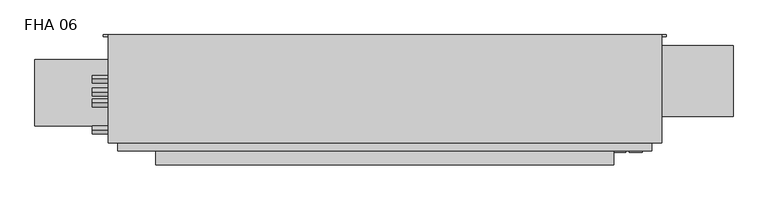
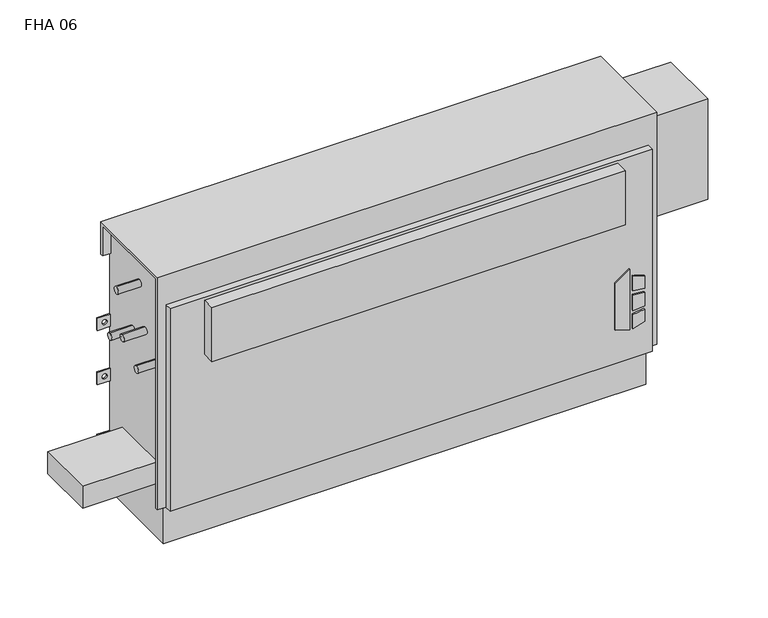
"""IFC4 building model written with IfcOpenShell, lengths in millimetres: proxy geometry, Vertical_Fan_Coil_Unit_-_FHA_-_IEC_-_4-Pipe_FS-FR_LH_2022 : FHA 06."""

from ifc_helpers import new_model, si_unit, point, frame, frame_2d, origin, place, context, project, spatial, polyline, circle_curve, trimmed, segment, composite_curve, outline, extrude, source, transform, mapped, element, save
from ifc_brep_helpers import plane_surface, revolved_surface, advanced_brep


def fha_06_32068518(model_context):
    return source(origin(), model_context, "Body", "SolidModel", [
        extrude(outline(polyline([(172.5771459, 601.7368862), (162.6290756, 633.9102728), (304.8, 633.9102728), (281.7779939, 601.7368862), (172.5771459, 601.7368862)])), frame((0.0, 9.525, 0.0), z_axis=(0.0, 1.0, 0.0), x_axis=(0.0, 0.0, 1.0)), (0.0, 0.0, 1.0), 3.175),
        extrude(outline(polyline([(251.5764313, 640.6686058), (248.3740387, 666.75), (277.6028798, 666.75), (285.6672948, 640.6686058), (251.5764313, 640.6686058)])), frame((0.0, 9.525, 0.0), z_axis=(0.0, 1.0, 0.0), x_axis=(0.0, 0.0, 1.0)), (0.0, 0.0, 1.0), 3.175),
        extrude(outline(polyline([(199.7129044, 666.75), (196.0474034, 640.6686058), (162.6290756, 640.6686058), (171.2633128, 666.75), (199.7129044, 666.75)])), frame((0.0, 9.525, 0.0), z_axis=(0.0, 1.0, 0.0), x_axis=(0.0, 0.0, 1.0)), (0.0, 0.0, 1.0), 3.175),
        extrude(outline(polyline([(239.0280658, 666.75), (241.3098921, 640.6686058), (205.3723436, 640.6686058), (208.1136086, 666.75), (239.0280658, 666.75)])), frame((0.0, 9.525, 0.0), z_axis=(0.0, 1.0, 0.0), x_axis=(0.0, 0.0, 1.0)), (0.0, 0.0, 1.0), 3.175),
        extrude(outline(composite_curve([segment(trimmed(circle_curve(frame_2d((-444.5, 128.5875)), 9.525), [point((-454.025, 128.5875))], [point((-434.975, 128.5875))], False, "CARTESIAN"), True, "CONTINUOUS"), segment(trimmed(circle_curve(frame_2d((-444.5, 128.5875)), 9.525), [point((-434.975, 128.5875))], [point((-454.025, 128.5875))], False, "CARTESIAN"), True, "CONTINUOUS")], self_intersect=False)), frame((0.0, 0.0, 101.6), z_axis=(0.0, 0.0, 1.0), x_axis=(1.0, 0.0, 0.0)), (0.0, 0.0, 1.0), 25.4),
        extrude(outline(polyline([(-546.1, 61.9125), (-546.1, 195.2625), (-381.0, 195.2625), (-381.0, 61.9125), (-546.1, 61.9125)])), frame((0.0, 0.0, 127.0), z_axis=(0.0, 0.0, 1.0), x_axis=(1.0, 0.0, 0.0)), (0.0, 0.0, 1.0), 50.8),
        extrude(outline(polyline([(609.6, -15.875), (-304.8, -15.875), (-304.8, 12.7), (609.6, 12.7), (609.6, -15.875)])), frame((0.0, 0.0, 431.8), z_axis=(0.0, 0.0, 1.0), x_axis=(1.0, 0.0, 0.0)), (0.0, 0.0, 1.0), 127.0),
        extrude(outline(composite_curve([segment(trimmed(circle_curve(frame_2d((107.95, 457.2)), 7.9375), [point((107.95, 465.1375))], [point((107.95, 449.2625))], False, "CARTESIAN"), True, "CONTINUOUS"), segment(trimmed(circle_curve(frame_2d((107.95, 457.2)), 7.9375), [point((107.95, 449.2625))], [point((107.95, 465.1375))], False, "CARTESIAN"), True, "CONTINUOUS")], self_intersect=False)), frame((-431.8, 0.0, 0.0), z_axis=(1.0, 0.0, 0.0), x_axis=(0.0, 1.0, 0.0)), (0.0, 0.0, 1.0), 50.8),
        extrude(outline(composite_curve([segment(trimmed(circle_curve(frame_2d((155.575, 431.8)), 7.9375), [point((155.575, 439.7375))], [point((155.575, 423.8625))], False, "CARTESIAN"), True, "CONTINUOUS"), segment(trimmed(circle_curve(frame_2d((155.575, 431.8)), 7.9375), [point((155.575, 423.8625))], [point((155.575, 439.7375))], False, "CARTESIAN"), True, "CONTINUOUS")], self_intersect=False)), frame((-431.8, 0.0, 0.0), z_axis=(1.0, 0.0, 0.0), x_axis=(0.0, 1.0, 0.0)), (0.0, 0.0, 1.0), 50.8),
        extrude(outline(composite_curve([segment(trimmed(circle_curve(frame_2d((130.175, 554.99)), 7.9502), [point((130.175, 562.9402))], [point((130.175, 547.0398))], False, "CARTESIAN"), True, "CONTINUOUS"), segment(trimmed(circle_curve(frame_2d((130.175, 554.99)), 7.9502), [point((130.175, 547.0398))], [point((130.175, 562.9402))], False, "CARTESIAN"), True, "CONTINUOUS")], self_intersect=False)), frame((-431.8, 0.0, 0.0), z_axis=(1.0, 0.0, 0.0), x_axis=(0.0, 1.0, 0.0)), (0.0, 0.0, 1.0), 50.8),
        extrude(outline(composite_curve([segment(trimmed(circle_curve(frame_2d((53.975, 416.56)), 7.9502), [point((53.975, 424.5102))], [point((53.975, 408.6098))], False, "CARTESIAN"), True, "CONTINUOUS"), segment(trimmed(circle_curve(frame_2d((53.975, 416.56)), 7.9502), [point((53.975, 408.6098))], [point((53.975, 424.5102))], False, "CARTESIAN"), True, "CONTINUOUS")], self_intersect=False)), frame((-431.8, 0.0, 0.0), z_axis=(1.0, 0.0, 0.0), x_axis=(0.0, 1.0, 0.0)), (0.0, 0.0, 1.0), 50.8),
        extrude(outline(polyline([(847.725, 223.266), (847.725, 81.534), (685.8, 81.534), (685.8, 223.266), (847.725, 223.266)])), frame((0.0, 0.0, 349.25), z_axis=(0.0, 0.0, 1.0), x_axis=(1.0, 0.0, 0.0)), (0.0, 0.0, 1.0), 234.95),
        advanced_brep(
        [(704.85, 244.475, 635.0), (-400.05, 244.475, 635.0), (-400.05, 28.575, 635.0), (704.85, 28.575, 635.0), (-381.0, 244.475, 0.0), (685.8, 244.475, 0.0), (685.8, 38.1, 0.0), (-381.0, 38.1, 0.0), (704.85, 244.475, 558.8), (685.8, 244.475, 558.8), (685.8, 244.475, 414.3375), (714.375, 244.475, 414.3375), (714.375, 244.475, 385.7625), (685.8, 244.475, 385.7625), (685.8, 244.475, 287.3375), (714.375, 244.475, 287.3375), (714.375, 244.475, 258.7625), (685.8, 244.475, 258.7625), (685.8, 244.475, 141.2875), (714.375, 244.475, 141.2875), (714.375, 244.475, 112.7125), (685.8, 244.475, 112.7125), (-381.0, 244.475, 112.7125), (-409.575, 244.475, 112.7125), (-409.575, 244.475, 141.2875), (-381.0, 244.475, 141.2875), (-381.0, 244.475, 258.7625), (-409.575, 244.475, 258.7625), (-409.575, 244.475, 287.3375), (-381.0, 244.475, 287.3375), (-381.0, 244.475, 385.7625), (-409.575, 244.475, 385.7625), (-409.575, 244.475, 414.3375), (-381.0, 244.475, 414.3375), (-381.0, 244.475, 558.8), (-400.05, 244.475, 558.8), (704.0626, 244.475, 127.0), (692.9374, 244.475, 127.0), (-388.1374, 244.475, 127.0), (-399.2626, 244.475, 127.0), (704.0626, 244.475, 273.05), (692.9374, 244.475, 273.05), (-388.1374, 244.475, 273.05), (-399.2626, 244.475, 273.05), (704.0626, 244.475, 400.05), (692.9374, 244.475, 400.05), (-388.1374, 244.475, 400.05), (-399.2626, 244.475, 400.05), (-400.05, 238.125, 558.8), (-400.05, 238.125, 628.65), (-400.05, 34.925, 628.65), (-400.05, 34.925, 92.075), (-400.05, 28.575, 92.075), (685.8, 12.7, 565.15), (-381.0, 12.7, 565.15), (-381.0, 12.7, 92.075), (685.8, 12.7, 92.075), (704.85, 28.575, 92.075), (704.85, 34.925, 92.075), (704.85, 34.925, 628.65), (704.85, 238.125, 628.65), (704.85, 238.125, 558.8), (-381.0, 28.575, 92.075), (-381.0, 28.575, 565.15), (685.8, 28.575, 565.15), (685.8, 28.575, 92.075), (-381.0, 34.925, 92.075), (-381.0, 38.1, 92.075), (685.8, 38.1, 92.075), (685.8, 34.925, 92.075), (685.8, 241.3, 112.7125), (685.8, 241.3, 141.2875), (685.8, 241.3, 258.7625), (685.8, 241.3, 287.3375), (685.8, 241.3, 385.7625), (685.8, 241.3, 414.3375), (685.8, 238.125, 558.8), (685.8, 238.125, 628.65), (685.8, 34.925, 628.65), (-381.0, 34.925, 628.65), (-381.0, 238.125, 628.65), (-381.0, 238.125, 558.8), (-381.0, 241.3, 414.3375), (-381.0, 241.3, 385.7625), (-381.0, 241.3, 287.3375), (-381.0, 241.3, 258.7625), (-381.0, 241.3, 141.2875), (-381.0, 241.3, 112.7125), (714.375, 241.3, 112.7125), (714.375, 241.3, 141.2875), (692.9374, 241.3, 127.0), (704.0626, 241.3, 127.0), (714.375, 241.3, 258.7625), (714.375, 241.3, 287.3375), (692.9374, 241.3, 273.05), (704.0626, 241.3, 273.05), (714.375, 241.3, 385.7625), (714.375, 241.3, 414.3375), (692.9374, 241.3, 400.05), (704.0626, 241.3, 400.05), (-409.575, 241.3, 141.2875), (-409.575, 241.3, 112.7125), (-399.2626, 241.3, 127.0), (-388.1374, 241.3, 127.0), (-409.575, 241.3, 287.3375), (-409.575, 241.3, 258.7625), (-399.2626, 241.3, 273.05), (-388.1374, 241.3, 273.05), (-409.575, 241.3, 414.3375), (-409.575, 241.3, 385.7625), (-399.2626, 241.3, 400.05), (-388.1374, 241.3, 400.05)],
        [
            (0, 1),
            (1, 2),
            (2, 3),
            (3, 0),
            (4, 5),
            (5, 6),
            (6, 7),
            (7, 4),
            (0, 8),
            (8, 9),
            (9, 10),
            (10, 11),
            (11, 12),
            (12, 13),
            (13, 14),
            (14, 15),
            (15, 16),
            (16, 17),
            (17, 18),
            (18, 19),
            (19, 20),
            (20, 21),
            (21, 5),
            (4, 22),
            (22, 23),
            (23, 24),
            (24, 25),
            (25, 26),
            (26, 27),
            (27, 28),
            (28, 29),
            (29, 30),
            (30, 31),
            (31, 32),
            (32, 33),
            (33, 34),
            (34, 35),
            (35, 1),
            (36, 37, circle_curve(frame((698.5, 244.475, 127.0), z_axis=(0.0, -1.0, 0.0), x_axis=(-1.0, 0.0, 0.0)), 5.5626)),
            (37, 36, circle_curve(frame((698.5, 244.475, 127.0), z_axis=(0.0, -1.0, 0.0), x_axis=(-1.0, 0.0, 0.0)), 5.5626)),
            (38, 39, circle_curve(frame((-393.7, 244.475, 127.0), z_axis=(0.0, -1.0, 0.0), x_axis=(-1.0, 0.0, 0.0)), 5.5626)),
            (39, 38, circle_curve(frame((-393.7, 244.475, 127.0), z_axis=(0.0, -1.0, 0.0), x_axis=(-1.0, 0.0, 0.0)), 5.5626)),
            (40, 41, circle_curve(frame((698.5, 244.475, 273.05), z_axis=(0.0, -1.0, 0.0), x_axis=(-1.0, 0.0, 0.0)), 5.5626)),
            (41, 40, circle_curve(frame((698.5, 244.475, 273.05), z_axis=(0.0, -1.0, 0.0), x_axis=(-1.0, 0.0, 0.0)), 5.5626)),
            (42, 43, circle_curve(frame((-393.7, 244.475, 273.05), z_axis=(0.0, -1.0, 0.0), x_axis=(-1.0, 0.0, 0.0)), 5.5626)),
            (43, 42, circle_curve(frame((-393.7, 244.475, 273.05), z_axis=(0.0, -1.0, 0.0), x_axis=(-1.0, 0.0, 0.0)), 5.5626)),
            (44, 45, circle_curve(frame((698.5, 244.475, 400.05), z_axis=(0.0, -1.0, 0.0), x_axis=(-1.0, 0.0, 0.0)), 5.5626)),
            (45, 44, circle_curve(frame((698.5, 244.475, 400.05), z_axis=(0.0, -1.0, 0.0), x_axis=(-1.0, 0.0, 0.0)), 5.5626)),
            (46, 47, circle_curve(frame((-393.7, 244.475, 400.05), z_axis=(0.0, -1.0, 0.0), x_axis=(-1.0, 0.0, 0.0)), 5.5626)),
            (47, 46, circle_curve(frame((-393.7, 244.475, 400.05), z_axis=(0.0, -1.0, 0.0), x_axis=(-1.0, 0.0, 0.0)), 5.5626)),
            (35, 48),
            (48, 49),
            (49, 50),
            (50, 51),
            (51, 52),
            (52, 2),
            (53, 54),
            (54, 55),
            (55, 56),
            (56, 53),
            (3, 57),
            (57, 58),
            (58, 59),
            (59, 60),
            (60, 61),
            (61, 8),
            (52, 62),
            (62, 63),
            (63, 64),
            (64, 65),
            (65, 57),
            (53, 64),
            (63, 54),
            (55, 62),
            (51, 66),
            (66, 67),
            (67, 68),
            (68, 69),
            (69, 58),
            (65, 56),
            (6, 68),
            (67, 7),
            (21, 70),
            (70, 71),
            (71, 18),
            (17, 72),
            (72, 73),
            (73, 14),
            (13, 74),
            (74, 75),
            (75, 10),
            (9, 76),
            (76, 77),
            (77, 78),
            (78, 69),
            (66, 79),
            (79, 80),
            (80, 81),
            (81, 34),
            (33, 82),
            (82, 83),
            (83, 30),
            (29, 84),
            (84, 85),
            (85, 26),
            (25, 86),
            (86, 87),
            (87, 22),
            (76, 61),
            (60, 77),
            (78, 59),
            (50, 79),
            (81, 48),
            (80, 49),
            (70, 88),
            (88, 89),
            (89, 71),
            (90, 91, circle_curve(frame((698.5, 241.3, 127.0), z_axis=(0.0, 1.0, 0.0), x_axis=(-1.0, 0.0, 0.0)), 5.5626)),
            (91, 90, circle_curve(frame((698.5, 241.3, 127.0), z_axis=(0.0, 1.0, 0.0), x_axis=(-1.0, 0.0, 0.0)), 5.5626)),
            (92, 93),
            (93, 73),
            (72, 92),
            (94, 95, circle_curve(frame((698.5, 241.3, 273.05), z_axis=(0.0, 1.0, 0.0), x_axis=(-1.0, 0.0, 0.0)), 5.5626)),
            (95, 94, circle_curve(frame((698.5, 241.3, 273.05), z_axis=(0.0, 1.0, 0.0), x_axis=(-1.0, 0.0, 0.0)), 5.5626)),
            (96, 97),
            (97, 75),
            (74, 96),
            (98, 99, circle_curve(frame((698.5, 241.3, 400.05), z_axis=(0.0, 1.0, 0.0), x_axis=(-1.0, 0.0, 0.0)), 5.5626)),
            (99, 98, circle_curve(frame((698.5, 241.3, 400.05), z_axis=(0.0, 1.0, 0.0), x_axis=(-1.0, 0.0, 0.0)), 5.5626)),
            (100, 101),
            (101, 87),
            (86, 100),
            (102, 103, circle_curve(frame((-393.7, 241.3, 127.0), z_axis=(0.0, 1.0, 0.0), x_axis=(-1.0, 0.0, 0.0)), 5.5626)),
            (103, 102, circle_curve(frame((-393.7, 241.3, 127.0), z_axis=(0.0, 1.0, 0.0), x_axis=(-1.0, 0.0, 0.0)), 5.5626)),
            (84, 104),
            (104, 105),
            (105, 85),
            (106, 107, circle_curve(frame((-393.7, 241.3, 273.05), z_axis=(0.0, 1.0, 0.0), x_axis=(-1.0, 0.0, 0.0)), 5.5626)),
            (107, 106, circle_curve(frame((-393.7, 241.3, 273.05), z_axis=(0.0, 1.0, 0.0), x_axis=(-1.0, 0.0, 0.0)), 5.5626)),
            (108, 109),
            (109, 83),
            (82, 108),
            (110, 111, circle_curve(frame((-393.7, 241.3, 400.05), z_axis=(0.0, 1.0, 0.0), x_axis=(-1.0, 0.0, 0.0)), 5.5626)),
            (111, 110, circle_curve(frame((-393.7, 241.3, 400.05), z_axis=(0.0, 1.0, 0.0), x_axis=(-1.0, 0.0, 0.0)), 5.5626)),
            (89, 19),
            (88, 20),
            (16, 92),
            (93, 15),
            (12, 96),
            (97, 11),
            (24, 100),
            (101, 23),
            (105, 27),
            (104, 28),
            (32, 108),
            (109, 31),
            (90, 37),
            (36, 91),
            (102, 39),
            (38, 103),
            (94, 41),
            (40, 95),
            (106, 43),
            (42, 107),
            (98, 45),
            (44, 99),
            (110, 47),
            (46, 111),
        ],
        [
            plane_surface(frame((-400.05, 244.475, 635.0), z_axis=(0.0, 0.0, 1.0), x_axis=(-1.0, 0.0, 0.0))),
            plane_surface(frame((-400.05, 244.475, 0.0), z_axis=(0.0, 0.0, -1.0), x_axis=(1.0, 0.0, 0.0))),
            plane_surface(frame((704.85, 244.475, 635.0), z_axis=(0.0, 1.0, 0.0), x_axis=(0.0, 0.0, -1.0))),
            plane_surface(frame((-400.05, 244.475, 635.0), z_axis=(-1.0, 0.0, 0.0), x_axis=(0.0, 0.0, -1.0))),
            plane_surface(frame((-400.05, 12.7, 635.0), z_axis=(0.0, -1.0, 0.0), x_axis=(0.0, 0.0, -1.0))),
            plane_surface(frame((704.85, 12.7, 635.0), z_axis=(1.0, 0.0, 0.0), x_axis=(0.0, 0.0, -1.0))),
            plane_surface(frame((-654.05, 28.575, 635.0), z_axis=(0.0, -1.0, 0.0), x_axis=(1.0, 0.0, 0.0))),
            plane_surface(frame((-654.05, 28.575, 565.15), z_axis=(0.0, 0.0, 1.0), x_axis=(1.0, 0.0, 0.0))),
            plane_surface(frame((-400.05, 12.7, 92.075), z_axis=(0.0, 0.0, -1.0), x_axis=(1.0, 0.0, 0.0))),
            plane_surface(frame((-400.05, 38.1, 92.075), z_axis=(0.0, -1.0, 0.0), x_axis=(1.0, 0.0, 0.0))),
            plane_surface(frame((685.8, 28.575, 92.075), z_axis=(1.0, 0.0, 0.0), x_axis=(0.0, -1.0, 0.0))),
            plane_surface(frame((-381.0, 28.575, 565.15), z_axis=(-1.0, 0.0, 0.0), x_axis=(0.0, -1.0, 0.0))),
            plane_surface(frame((685.8, 244.475, 0.0), z_axis=(1.0, 0.0, 0.0), x_axis=(0.0, -1.0, 0.0))),
            plane_surface(frame((-381.0, 244.475, 92.075), z_axis=(-1.0, 0.0, 0.0), x_axis=(0.0, -1.0, 0.0))),
            plane_surface(frame((685.8, 238.125, 628.65), z_axis=(0.0, -1.0, 0.0), x_axis=(1.0, 0.0, 0.0))),
            plane_surface(frame((685.8, 238.125, 558.8), z_axis=(0.0, 0.0, -1.0), x_axis=(1.0, 0.0, 0.0))),
            plane_surface(frame((685.8, 34.925, 92.075), z_axis=(0.0, 1.0, 0.0), x_axis=(1.0, 0.0, 0.0))),
            plane_surface(frame((685.8, 34.925, 628.65), z_axis=(0.0, 0.0, -1.0), x_axis=(1.0, 0.0, 0.0))),
            plane_surface(frame((-381.0, 34.925, 628.65), z_axis=(0.0, 1.0, 0.0), x_axis=(-1.0, 0.0, 0.0))),
            plane_surface(frame((-381.0, 244.475, 558.8), z_axis=(0.0, 0.0, -1.0), x_axis=(-1.0, 0.0, 0.0))),
            plane_surface(frame((-381.0, 238.125, 558.8), z_axis=(0.0, -1.0, 0.0), x_axis=(-1.0, 0.0, 0.0))),
            plane_surface(frame((-381.0, 238.125, 628.65), z_axis=(0.0, 0.0, -1.0), x_axis=(-1.0, 0.0, 0.0))),
            plane_surface(frame((714.375, 241.3, 141.2875), z_axis=(0.0, -1.0, 0.0), x_axis=(-1.0, 0.0, 0.0))),
            plane_surface(frame((685.8, 244.475, 141.2875), z_axis=(0.0, 0.0, 1.0), x_axis=(0.0, -1.0, 0.0))),
            plane_surface(frame((714.375, 244.475, 141.2875), z_axis=(1.0, 0.0, 0.0), x_axis=(0.0, -1.0, 0.0))),
            plane_surface(frame((714.375, 244.475, 112.7125), z_axis=(0.0, 0.0, -1.0), x_axis=(0.0, -1.0, 0.0))),
            plane_surface(frame((714.375, 244.475, 258.7625), z_axis=(0.0, 0.0, -1.0), x_axis=(0.0, -1.0, 0.0))),
            plane_surface(frame((685.8, 244.475, 287.3375), z_axis=(0.0, 0.0, 1.0), x_axis=(0.0, -1.0, 0.0))),
            plane_surface(frame((714.375, 244.475, 287.3375), z_axis=(1.0, 0.0, 0.0), x_axis=(0.0, -1.0, 0.0))),
            plane_surface(frame((714.375, 244.475, 385.7625), z_axis=(0.0, 0.0, -1.0), x_axis=(0.0, -1.0, 0.0))),
            plane_surface(frame((685.8, 244.475, 414.3375), z_axis=(0.0, 0.0, 1.0), x_axis=(0.0, -1.0, 0.0))),
            plane_surface(frame((714.375, 244.475, 414.3375), z_axis=(1.0, 0.0, 0.0), x_axis=(0.0, -1.0, 0.0))),
            plane_surface(frame((-409.575, 244.475, 141.2875), z_axis=(0.0, 0.0, 1.0), x_axis=(0.0, -1.0, 0.0))),
            plane_surface(frame((-381.0, 244.475, 112.7125), z_axis=(0.0, 0.0, -1.0), x_axis=(0.0, -1.0, 0.0))),
            plane_surface(frame((-409.575, 244.475, 112.7125), z_axis=(-1.0, 0.0, 0.0), x_axis=(0.0, -1.0, 0.0))),
            plane_surface(frame((-381.0, 244.475, 258.7625), z_axis=(0.0, 0.0, -1.0), x_axis=(0.0, -1.0, 0.0))),
            plane_surface(frame((-409.575, 244.475, 258.7625), z_axis=(-1.0, 0.0, 0.0), x_axis=(0.0, -1.0, 0.0))),
            plane_surface(frame((-409.575, 244.475, 287.3375), z_axis=(0.0, 0.0, 1.0), x_axis=(0.0, -1.0, 0.0))),
            plane_surface(frame((-409.575, 244.475, 414.3375), z_axis=(0.0, 0.0, 1.0), x_axis=(0.0, -1.0, 0.0))),
            plane_surface(frame((-381.0, 244.475, 385.7625), z_axis=(0.0, 0.0, -1.0), x_axis=(0.0, -1.0, 0.0))),
            plane_surface(frame((-409.575, 244.475, 385.7625), z_axis=(-1.0, 0.0, 0.0), x_axis=(0.0, -1.0, 0.0))),
            revolved_surface(polyline([(692.9374, 241.3, 127.0), (692.9374, 244.475, 127.0)]), (698.5, 244.475, 127.0), (0.0, -1.0, 0.0)),
            revolved_surface(polyline([(-399.26259999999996, 241.3, 127.0), (-399.26259999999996, 244.475, 127.0)]), (-393.7, 244.475, 127.0), (0.0, -1.0, 0.0)),
            revolved_surface(polyline([(692.9374, 241.3, 273.05), (692.9374, 244.475, 273.05)]), (698.5, 244.475, 273.05), (0.0, -1.0, 0.0)),
            revolved_surface(polyline([(-399.26259999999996, 241.3, 273.05), (-399.26259999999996, 244.475, 273.05)]), (-393.7, 244.475, 273.05), (0.0, -1.0, 0.0)),
            revolved_surface(polyline([(692.9374, 241.3, 400.05), (692.9374, 244.475, 400.05)]), (698.5, 244.475, 400.05), (0.0, -1.0, 0.0)),
            revolved_surface(polyline([(-399.26259999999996, 241.3, 400.05), (-399.26259999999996, 244.475, 400.05)]), (-393.7, 244.475, 400.05), (0.0, -1.0, 0.0)),
        ],
        [
            (0, [[1, 2, 3, 4]]),
            (1, [[5, 6, 7, 8]]),
            (2, [[-1, 9, 10, 11, 12, 13, 14, 15, 16, 17, 18, 19, 20, 21, 22, 23, -5, 24, 25, 26, 27, 28, 29, 30, 31, 32, 33, 34, 35, 36, 37, 38], [39, 40], [41, 42], [43, 44], [45, 46], [47, 48], [49, 50]]),
            (3, [[-2, -38, 51, 52, 53, 54, 55, 56]]),
            (4, [[57, 58, 59, 60]]),
            (5, [[-4, 61, 62, 63, 64, 65, 66, -9]]),
            (6, [[-3, -56, 67, 68, 69, 70, 71, -61]]),
            (7, [[-57, 72, -69, 73]]),
            (8, [[-59, 74, -67, -55, 75, 76, 77, 78, 79, -62, -71, 80]]),
            (9, [[-7, 81, -77, 82]]),
            (10, [[-70, -72, -60, -80]]),
            (11, [[-68, -74, -58, -73]]),
            (12, [[-6, -23, 83, 84, 85, -19, 86, 87, 88, -15, 89, 90, 91, -11, 92, 93, 94, 95, -78, -81]]),
            (13, [[-8, -82, -76, 96, 97, 98, 99, -36, 100, 101, 102, -32, 103, 104, 105, -28, 106, 107, 108, -24]]),
            (14, [[-93, 109, -65, 110]]),
            (15, [[-92, -10, -66, -109]]),
            (16, [[-95, 111, -63, -79]]),
            (17, [[-94, -110, -64, -111]]),
            (18, [[-96, -75, -54, 112]]),
            (19, [[-99, 113, -51, -37]]),
            (20, [[-98, 114, -52, -113]]),
            (21, [[-97, -112, -53, -114]]),
            (22, [[115, 116, 117, -84], [118, 119]]),
            (22, [[120, 121, -87, 122], [123, 124]]),
            (22, [[125, 126, -90, 127], [128, 129]]),
            (22, [[130, 131, -107, 132], [133, 134]]),
            (22, [[135, 136, 137, -104], [138, 139]]),
            (22, [[140, 141, -101, 142], [143, 144]]),
            (23, [[-117, 145, -20, -85]]),
            (24, [[-116, 146, -21, -145]]),
            (25, [[-115, -83, -22, -146]]),
            (26, [[-122, -86, -18, 147]]),
            (27, [[-121, 148, -16, -88]]),
            (28, [[-120, -147, -17, -148]]),
            (29, [[-127, -89, -14, 149]]),
            (30, [[-126, 150, -12, -91]]),
            (31, [[-125, -149, -13, -150]]),
            (32, [[-132, -106, -27, 151]]),
            (33, [[-131, 152, -25, -108]]),
            (34, [[-130, -151, -26, -152]]),
            (35, [[-137, 153, -29, -105]]),
            (36, [[-136, 154, -30, -153]]),
            (37, [[-135, -103, -31, -154]]),
            (38, [[-142, -100, -35, 155]]),
            (39, [[-141, 156, -33, -102]]),
            (40, [[-140, -155, -34, -156]]),
            (41, [[157, -39, 158, -118]]),
            (41, [[-157, -119, -158, -40]]),
            (42, [[159, -41, 160, -133]]),
            (42, [[-159, -134, -160, -42]]),
            (43, [[161, -43, 162, -123]]),
            (43, [[-161, -124, -162, -44]]),
            (44, [[163, -45, 164, -138]]),
            (44, [[-163, -139, -164, -46]]),
            (45, [[165, -47, 166, -128]]),
            (45, [[-165, -129, -166, -48]]),
            (46, [[167, -49, 168, -143]]),
            (46, [[-167, -144, -168, -50]]),
        ],
    ),
    ])


if __name__ == "__main__":
    model = new_model("IFC4")
    model_context = context("Model", 3, world=origin())
    ifc_project = project(units=[si_unit("LENGTHUNIT", "METRE", prefix="MILLI")], contexts=[model_context])
    site = spatial("IfcSite", under=ifc_project)
    building = spatial("IfcBuilding", under=site)
    placement = place(None, origin())
    fha_06_shape = fha_06_32068518(model_context)
    element("IfcBuildingElementProxy", 1, Name="Vertical_Fan_Coil_Unit_-_FHA_-_IEC_-_4-Pipe_FS-FR_LH_2022 : FHA 06", ObjectType="Vertical_Fan_Coil_Unit_-_FHA_-_IEC_-_4-Pipe_FS-FR_LH_2022 : FHA 06", at=placement, inside=building, context=model_context, shape_type="MappedRepresentation", body=[
        mapped(fha_06_shape, transform((0.0, 0.0, 0.0), x_axis=(1.0, 0.0, 0.0), y_axis=(0.0, 1.0, 0.0), z_axis=(0.0, 0.0, 1.0))),
    ])
    save(model, "model.ifc")
